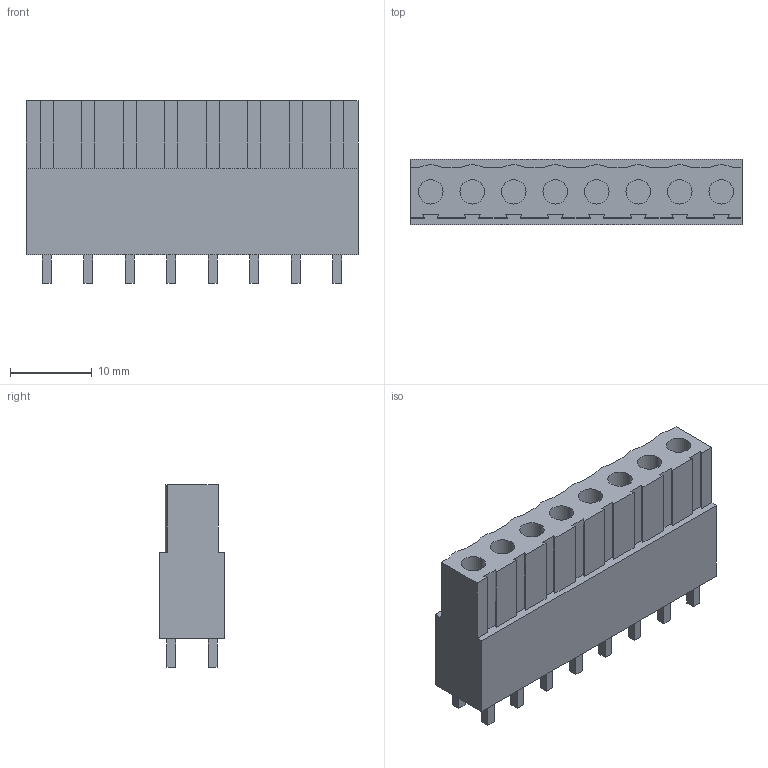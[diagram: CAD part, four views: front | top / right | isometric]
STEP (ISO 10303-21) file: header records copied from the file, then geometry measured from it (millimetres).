
FILE_DESCRIPTION(('FreeCAD Model'),'2;1');
FILE_NAME('Open CASCADE Shape Model','2026-06-25T01:30:45',(''),(''), 'Open CASCADE STEP processor 7.8','FreeCAD','Unknown');
FILE_SCHEMA(('AUTOMOTIVE_DESIGN { 1 0 10303 214 1 1 1 1 }'));
Length unit declared in the file: millimetre
Products named in the file (1): Body
Bounding box: 40.64 x 8 x 22.4 mm (x, y, z)
Volume: 5125.9 mm3; surface area: 3428.9 mm2
Topology: 1 solids, 1 shells, 154 faces, 384 edges, 256 vertices
Faces by surface type: plane 138, cylinder 16
Full cylindrical faces by diameter (mm): 3 x8
Entity records: 4542 total; most frequent: CARTESIAN_POINT 795, ORIENTED_EDGE 768, DIRECTION 726, EDGE_CURVE 384, LINE 352, VECTOR 352, VERTEX_POINT 256, AXIS2_PLACEMENT_3D 187
